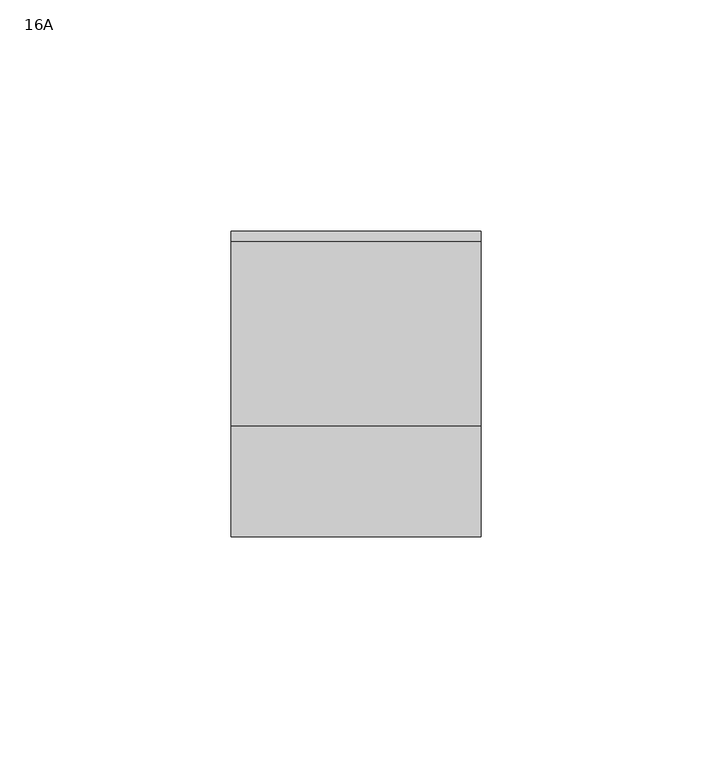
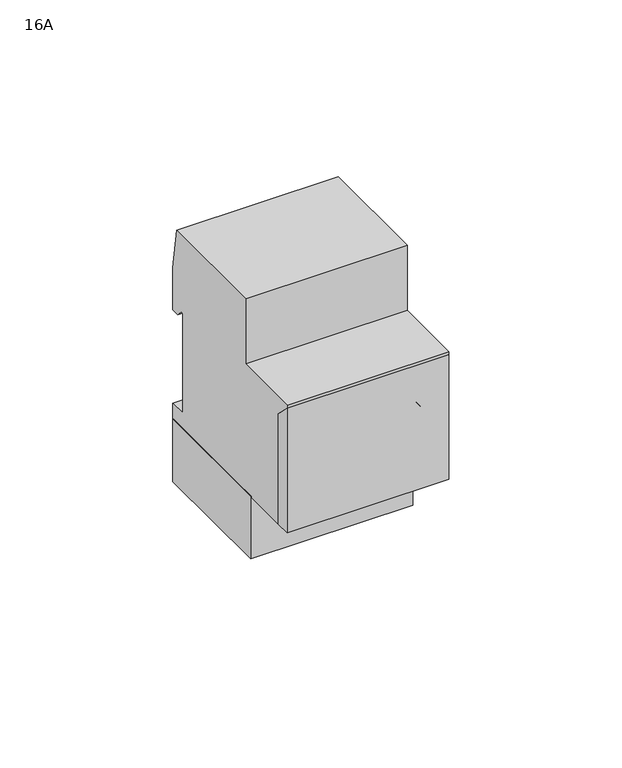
"""IFC4 building model written with IfcOpenShell, lengths in millimetres: proxy geometry, TDM_АНАЛОГОВОЕ СУТОЧНОЕ РЕЛЕ ВРЕМЕНИ СЕРИИ АР : 16A."""

from ifc_helpers import new_model, si_unit, point, frame, frame_2d, origin, place, context, project, spatial, polyline, circle_curve, trimmed, segment, composite_curve, outline, extrude, faceted_brep, source, transform, mapped, element, save
from ifc_brep_helpers import plane_surface, cylinder_surface, revolved_surface, advanced_brep


def proxy_16a_1d34f174(model_context):
    return source(origin(), model_context, "Body", "SolidModel", [
        faceted_brep([(27.0, -28.5, -23.0), (27.0, -23.5, -23.0), (27.0, -23.5, 15.875), (27.0, -28.5, 20.875), (-27.0, -28.5, -23.0), (-27.0, -28.5, 20.875), (-27.0, -23.5, 15.875), (-27.0, -23.5, -23.0), (26.0, -28.5, -23.0), (-26.0, -28.5, -23.0), (-26.0, -23.5, 15.875), (-26.0, -23.5, -22.0547261), (26.0, -23.5, -22.0547261), (26.0, -23.5, 15.875), (-26.0, -27.8758752, -22.0547261), (26.0, -27.8758752, -22.0547261), (-26.0, -27.8758752, 20.2508752), (26.0, -27.8758752, 20.2508752)], [[[0, 1, 2, 3]], [[4, 5, 6, 7]], [[7, 1, 0, 8, 9, 4]], [[2, 1, 7, 6, 10, 11, 12, 13]], [[11, 14, 15, 12]], [[14, 16, 17, 15]], [[3, 2, 13, 17, 16, 10, 6, 5]], [[0, 3, 5, 4, 9, 8]], [[11, 10, 16, 14]], [[13, 12, 15, 17]]]),
        advanced_brep(
        [(10.5088422, -26.5148326, -3.7064718), (10.5088422, -26.5148326, 1.2064718), (10.5088422, -26.5148326, 4.1880391), (10.5088422, -26.5148326, -6.6880391), (10.5088422, -26.863615, -2.4047982), (10.5088422, -26.863615, -0.0952018), (10.5088422, -26.863615, -1.25), (10.5088422, -23.5, -11.2451775), (10.5088422, -23.5, 8.7451775), (10.5088422, -23.5, -1.25), (10.5088422, -26.8334988, -11.2451775), (10.5088422, -26.8334988, 8.7451775)],
        [
            (0, 1, circle_curve(frame((10.5088422, -26.5148326, -1.25), z_axis=(0.0, 1.0, 0.0), x_axis=(0.0, 0.0, 1.0)), 2.4564718)),
            (1, 2),
            (2, 3, circle_curve(frame((10.5088422, -26.5148326, -1.25), z_axis=(0.0, -1.0, 0.0), x_axis=(0.0, 0.0, 1.0)), 5.4380391)),
            (3, 0),
            (1, 0, circle_curve(frame((10.5088422, -26.5148326, -1.25), z_axis=(0.0, 1.0, 0.0), x_axis=(0.0, 0.0, 1.0)), 2.4564718)),
            (3, 2, circle_curve(frame((10.5088422, -26.5148326, -1.25), z_axis=(0.0, -1.0, 0.0), x_axis=(0.0, 0.0, 1.0)), 5.4380391)),
            (4, 5, circle_curve(frame((10.5088422, -26.863615, -1.25), z_axis=(0.0, 1.0, 0.0), x_axis=(0.0, 0.0, 1.0)), 1.1547982)),
            (5, 1),
            (0, 4),
            (5, 4, circle_curve(frame((10.5088422, -26.863615, -1.25), z_axis=(0.0, 1.0, 0.0), x_axis=(0.0, 0.0, 1.0)), 1.1547982)),
            (6, 5),
            (4, 6),
            (7, 8, circle_curve(frame((10.5088422, -23.5, -1.25), z_axis=(0.0, 1.0, 0.0), x_axis=(0.0, 0.0, 1.0)), 9.9951775)),
            (8, 9),
            (9, 7),
            (8, 7, circle_curve(frame((10.5088422, -23.5, -1.25), z_axis=(0.0, 1.0, 0.0), x_axis=(0.0, 0.0, 1.0)), 9.9951775)),
            (10, 11, circle_curve(frame((10.5088422, -26.8334988, -1.25), z_axis=(0.0, 1.0, 0.0), x_axis=(0.0, 0.0, 1.0)), 9.9951775)),
            (11, 8),
            (7, 10),
            (11, 10, circle_curve(frame((10.5088422, -26.8334988, -1.25), z_axis=(0.0, 1.0, 0.0), x_axis=(0.0, 0.0, 1.0)), 9.9951775)),
            (2, 11),
            (10, 3),
        ],
        [
            plane_surface(frame((10.5088422, -26.5148326, -1.25), z_axis=(0.0, -1.0, 0.0), x_axis=(0.0, 0.0, 1.0))),
            revolved_surface(polyline([(10.5088422, -26.5148326, 1.2064718), (10.5088422, -26.863615, -0.0952018)]), (10.5088422, -24.6818126, -1.25), (0.0, -1.0, 0.0)),
            plane_surface(frame((10.5088422, -26.863615, -1.25), z_axis=(0.0, -1.0, 0.0), x_axis=(0.0, 0.0, 1.0))),
            plane_surface(frame((10.5088422, -23.5, -1.25), z_axis=(0.0, 1.0, 0.0), x_axis=(0.0, 0.0, 1.0))),
            cylinder_surface(frame((10.5088422, -24.6818126, -1.25), z_axis=(0.0, -1.0, 0.0), x_axis=(0.0, 0.0, 1.0)), 9.9951775),
            revolved_surface(polyline([(10.5088422, -26.8334988, 8.7451775), (10.5088422, -26.5148326, 4.1880391)]), (10.5088422, -24.6818126, -1.25), (0.0, -1.0, 0.0)),
        ],
        [
            (0, [[1, 2, 3, 4]]),
            (0, [[5, -4, 6, -2]]),
            (1, [[7, 8, -1, 9]]),
            (1, [[10, -9, -5, -8]]),
            (2, [[11, -7, 12]]),
            (2, [[-12, -10, -11]]),
            (3, [[13, 14, 15]]),
            (3, [[16, -15, -14]]),
            (4, [[17, 18, -13, 19]]),
            (4, [[20, -19, -16, -18]]),
            (5, [[-3, 21, -17, 22]]),
            (5, [[-6, -22, -20, -21]]),
        ],
    ),
        faceted_brep([(-27.0, -7.5, -23.0), (-27.0, 37.5, -23.0), (-27.0, 37.5, -45.0), (-27.0, -7.5, -45.0), (27.0, -7.5, -23.0), (27.0, -7.5, -45.0), (27.0, 37.5, -45.0), (27.0, 37.5, -23.0), (2.0, -6.261012, -30.9695056), (-2.0, -6.261012, -30.9695056), (-2.0, -6.261012, -32.9695056), (2.0, -6.261012, -32.9695056), (2.0, -7.5, -30.9695056), (-2.0, -7.5, -30.9695056), (-2.0, -7.5, -32.9695056), (2.0, -7.5, -32.9695056)], [[[0, 1, 2, 3]], [[4, 5, 6, 7]], [[8, 9, 10, 11]], [[9, 8, 12, 13]], [[10, 9, 13, 14]], [[11, 10, 14, 15]], [[8, 11, 15, 12]], [[1, 0, 4, 7]], [[2, 1, 7, 6]], [[3, 2, 6, 5]], [[0, 3, 5, 4], [13, 12, 15, 14]]]),
        extrude(outline(composite_curve([segment(trimmed(circle_curve(frame_2d((-1.25, 10.5088422)), 15.0), [point((-1.25, -4.4911578))], [point((-1.25, 25.5088422))], False, "CARTESIAN"), True, "CONTINUOUS"), segment(trimmed(circle_curve(frame_2d((-1.25, 10.5088422)), 15.0), [point((-1.25, 25.5088422))], [point((-1.25, -4.4911578))], False, "CARTESIAN"), True, "CONTINUOUS")], self_intersect=False), holes=[composite_curve([segment(trimmed(circle_curve(frame_2d((-1.25, 10.5088422)), 10.0), [point((-1.25, 0.5088422))], [point((-1.25, 20.5088422))], True, "CARTESIAN"), True, "CONTINUOUS"), segment(trimmed(circle_curve(frame_2d((-1.25, 10.5088422)), 10.0), [point((-1.25, 20.5088422))], [point((-1.25, 0.5088422))], True, "CARTESIAN"), True, "CONTINUOUS")], self_intersect=False)]), frame((0.0, -26.863615, 0.0), z_axis=(0.0, 1.0, 0.0), x_axis=(0.0, 0.0, 1.0)), (0.0, 0.0, 1.0), 3.363615),
        extrude(outline(composite_curve([segment(trimmed(circle_curve(frame_2d((-16.9959191, -20.0538299)), 1.8896876), [point((-16.9959191, -21.9435175))], [point((-16.9959191, -18.1641423))], False, "CARTESIAN"), True, "CONTINUOUS"), segment(trimmed(circle_curve(frame_2d((-16.9959191, -20.0538299)), 1.8896876), [point((-16.9959191, -18.1641423))], [point((-16.9959191, -21.9435175))], False, "CARTESIAN"), True, "CONTINUOUS")], self_intersect=False)), frame((0.0, -24.6546486, 0.0), z_axis=(0.0, 1.0, 0.0), x_axis=(0.0, 0.0, 1.0)), (0.0, 0.0, 1.0), 1.1546486),
        extrude(outline(polyline([(31.7632568, 17.7057143), (31.7632568, -17.2942857), (37.5, -17.2942857), (37.5, -23.0), (-23.5, -23.0), (-23.5, 15.875), (-28.5, 20.875), (-28.5, 22.0), (-4.5, 22.0), (-4.5, 45.0), (35.3426471, 45.0), (37.5, 30.395891), (37.5, 15.5550671), (34.6361075, 15.5550671), (32.8315001, 17.7057143), (31.7632568, 17.7057143)])), frame((-27.0, 0.0, 0.0), z_axis=(1.0, 0.0, 0.0), x_axis=(0.0, 1.0, 0.0)), (0.0, 0.0, 1.0), 54.0),
        extrude(outline(polyline([(-18.5793903, -23.5), (-18.5793903, -24.6546486), (-22.3576419, -24.6546486), (-22.3576419, -23.5), (-18.5793903, -23.5)])), frame((0.0, 0.0, 10.5957282), z_axis=(0.0, 0.0, 1.0), x_axis=(1.0, 0.0, 0.0)), (0.0, 0.0, 1.0), 3.4663841),
        faceted_brep([(27.0, -28.5, -23.0), (27.0, -23.5, -23.0), (27.0, -23.5, 15.875), (27.0, -28.5, 20.875), (-27.0, -28.5, -23.0), (-27.0, -28.5, 20.875), (-27.0, -23.5, 15.875), (-27.0, -23.5, -23.0), (26.0, -28.5, -23.0), (-26.0, -28.5, -23.0), (-26.0, -23.5, 15.875), (-26.0, -23.5, -22.0547261), (26.0, -23.5, -22.0547261), (26.0, -23.5, 15.875), (-26.0, -27.8758752, -22.0547261), (26.0, -27.8758752, -22.0547261), (-26.0, -27.8758752, 20.2508752), (26.0, -27.8758752, 20.2508752)], [[[0, 1, 2, 3]], [[4, 5, 6, 7]], [[7, 1, 0, 8, 9, 4]], [[2, 1, 7, 6, 10, 11, 12, 13]], [[11, 14, 15, 12]], [[14, 16, 17, 15]], [[3, 2, 13, 17, 16, 10, 6, 5]], [[0, 3, 5, 4, 9, 8]], [[11, 10, 16, 14]], [[13, 12, 15, 17]]]),
        advanced_brep(
        [(10.5088422, -26.5148326, -3.7064718), (10.5088422, -26.5148326, 1.2064718), (10.5088422, -26.5148326, 4.1880391), (10.5088422, -26.5148326, -6.6880391), (10.5088422, -26.863615, -2.4047982), (10.5088422, -26.863615, -0.0952018), (10.5088422, -26.863615, -1.25), (10.5088422, -23.5, -11.2451775), (10.5088422, -23.5, 8.7451775), (10.5088422, -23.5, -1.25), (10.5088422, -26.8334988, -11.2451775), (10.5088422, -26.8334988, 8.7451775)],
        [
            (0, 1, circle_curve(frame((10.5088422, -26.5148326, -1.25), z_axis=(0.0, 1.0, 0.0), x_axis=(0.0, 0.0, 1.0)), 2.4564718)),
            (1, 2),
            (2, 3, circle_curve(frame((10.5088422, -26.5148326, -1.25), z_axis=(0.0, -1.0, 0.0), x_axis=(0.0, 0.0, 1.0)), 5.4380391)),
            (3, 0),
            (1, 0, circle_curve(frame((10.5088422, -26.5148326, -1.25), z_axis=(0.0, 1.0, 0.0), x_axis=(0.0, 0.0, 1.0)), 2.4564718)),
            (3, 2, circle_curve(frame((10.5088422, -26.5148326, -1.25), z_axis=(0.0, -1.0, 0.0), x_axis=(0.0, 0.0, 1.0)), 5.4380391)),
            (4, 5, circle_curve(frame((10.5088422, -26.863615, -1.25), z_axis=(0.0, 1.0, 0.0), x_axis=(0.0, 0.0, 1.0)), 1.1547982)),
            (5, 1),
            (0, 4),
            (5, 4, circle_curve(frame((10.5088422, -26.863615, -1.25), z_axis=(0.0, 1.0, 0.0), x_axis=(0.0, 0.0, 1.0)), 1.1547982)),
            (6, 5),
            (4, 6),
            (7, 8, circle_curve(frame((10.5088422, -23.5, -1.25), z_axis=(0.0, 1.0, 0.0), x_axis=(0.0, 0.0, 1.0)), 9.9951775)),
            (8, 9),
            (9, 7),
            (8, 7, circle_curve(frame((10.5088422, -23.5, -1.25), z_axis=(0.0, 1.0, 0.0), x_axis=(0.0, 0.0, 1.0)), 9.9951775)),
            (10, 11, circle_curve(frame((10.5088422, -26.8334988, -1.25), z_axis=(0.0, 1.0, 0.0), x_axis=(0.0, 0.0, 1.0)), 9.9951775)),
            (11, 8),
            (7, 10),
            (11, 10, circle_curve(frame((10.5088422, -26.8334988, -1.25), z_axis=(0.0, 1.0, 0.0), x_axis=(0.0, 0.0, 1.0)), 9.9951775)),
            (2, 11),
            (10, 3),
        ],
        [
            plane_surface(frame((10.5088422, -26.5148326, -1.25), z_axis=(0.0, -1.0, 0.0), x_axis=(0.0, 0.0, 1.0))),
            revolved_surface(polyline([(10.5088422, -26.5148326, 1.2064718), (10.5088422, -26.863615, -0.0952018)]), (10.5088422, -24.6818126, -1.25), (0.0, -1.0, 0.0)),
            plane_surface(frame((10.5088422, -26.863615, -1.25), z_axis=(0.0, -1.0, 0.0), x_axis=(0.0, 0.0, 1.0))),
            plane_surface(frame((10.5088422, -23.5, -1.25), z_axis=(0.0, 1.0, 0.0), x_axis=(0.0, 0.0, 1.0))),
            cylinder_surface(frame((10.5088422, -24.6818126, -1.25), z_axis=(0.0, -1.0, 0.0), x_axis=(0.0, 0.0, 1.0)), 9.9951775),
            revolved_surface(polyline([(10.5088422, -26.8334988, 8.7451775), (10.5088422, -26.5148326, 4.1880391)]), (10.5088422, -24.6818126, -1.25), (0.0, -1.0, 0.0)),
        ],
        [
            (0, [[1, 2, 3, 4]]),
            (0, [[5, -4, 6, -2]]),
            (1, [[7, 8, -1, 9]]),
            (1, [[10, -9, -5, -8]]),
            (2, [[11, -7, 12]]),
            (2, [[-12, -10, -11]]),
            (3, [[13, 14, 15]]),
            (3, [[16, -15, -14]]),
            (4, [[17, 18, -13, 19]]),
            (4, [[20, -19, -16, -18]]),
            (5, [[-3, 21, -17, 22]]),
            (5, [[-6, -22, -20, -21]]),
        ],
    ),
        extrude(outline(composite_curve([segment(trimmed(circle_curve(frame_2d((-1.25, 10.5088422)), 15.0), [point((-1.25, -4.4911578))], [point((-1.25, 25.5088422))], False, "CARTESIAN"), True, "CONTINUOUS"), segment(trimmed(circle_curve(frame_2d((-1.25, 10.5088422)), 15.0), [point((-1.25, 25.5088422))], [point((-1.25, -4.4911578))], False, "CARTESIAN"), True, "CONTINUOUS")], self_intersect=False), holes=[composite_curve([segment(trimmed(circle_curve(frame_2d((-1.25, 10.5088422)), 10.0), [point((-1.25, 0.5088422))], [point((-1.25, 20.5088422))], True, "CARTESIAN"), True, "CONTINUOUS"), segment(trimmed(circle_curve(frame_2d((-1.25, 10.5088422)), 10.0), [point((-1.25, 20.5088422))], [point((-1.25, 0.5088422))], True, "CARTESIAN"), True, "CONTINUOUS")], self_intersect=False)]), frame((0.0, -26.863615, 0.0), z_axis=(0.0, 1.0, 0.0), x_axis=(0.0, 0.0, 1.0)), (0.0, 0.0, 1.0), 3.363615),
        extrude(outline(composite_curve([segment(trimmed(circle_curve(frame_2d((-16.9959191, -20.0538299)), 1.8896876), [point((-16.9959191, -21.9435175))], [point((-16.9959191, -18.1641423))], False, "CARTESIAN"), True, "CONTINUOUS"), segment(trimmed(circle_curve(frame_2d((-16.9959191, -20.0538299)), 1.8896876), [point((-16.9959191, -18.1641423))], [point((-16.9959191, -21.9435175))], False, "CARTESIAN"), True, "CONTINUOUS")], self_intersect=False)), frame((0.0, -24.6546486, 0.0), z_axis=(0.0, 1.0, 0.0), x_axis=(0.0, 0.0, 1.0)), (0.0, 0.0, 1.0), 1.1546486),
    ])


if __name__ == "__main__":
    model = new_model("IFC4")
    model_context = context("Model", 3, world=origin())
    ifc_project = project(units=[si_unit("LENGTHUNIT", "METRE", prefix="MILLI")], contexts=[model_context])
    site = spatial("IfcSite", under=ifc_project)
    building = spatial("IfcBuilding", under=site)
    placement = place(None, origin())
    proxy_16a_shape = proxy_16a_1d34f174(model_context)
    element("IfcBuildingElementProxy", 1, Name="TDM_АНАЛОГОВОЕ СУТОЧНОЕ РЕЛЕ ВРЕМЕНИ СЕРИИ АР : 16A", ObjectType="TDM_АНАЛОГОВОЕ СУТОЧНОЕ РЕЛЕ ВРЕМЕНИ СЕРИИ АР : 16A", at=placement, inside=building, context=model_context, shape_type="MappedRepresentation", body=[
        mapped(proxy_16a_shape, transform((0.0, 0.0, 0.0), x_axis=(1.0, 0.0, 0.0), y_axis=(0.0, 1.0, 0.0), z_axis=(0.0, 0.0, 1.0))),
    ])
    save(model, "model.ifc")
